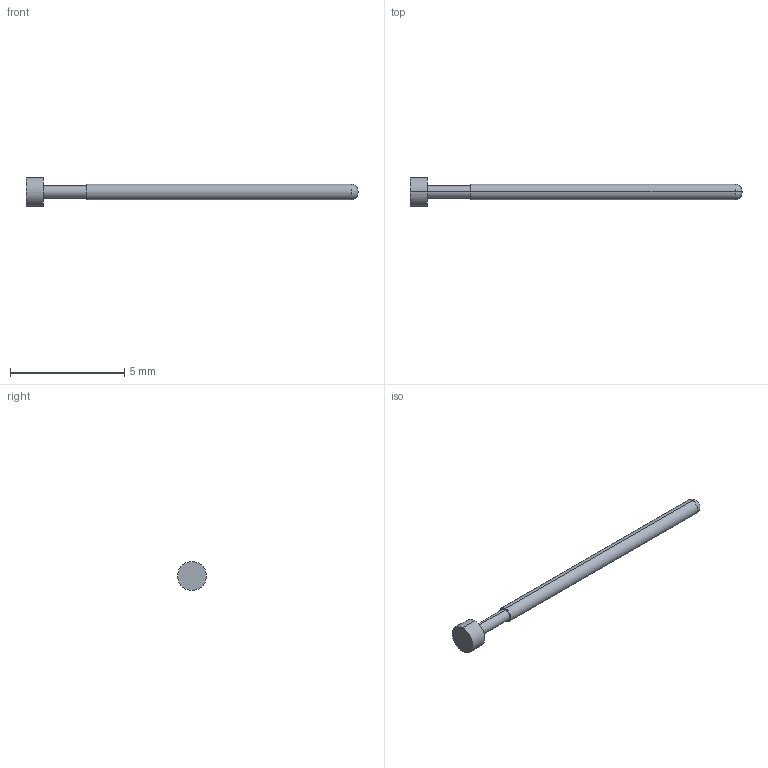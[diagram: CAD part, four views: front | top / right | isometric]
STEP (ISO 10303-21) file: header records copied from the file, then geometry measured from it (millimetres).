
FILE_DESCRIPTION (( 'STEP AP203' ), '1' );
FILE_NAME ('IP068B-2N.STEP', '2014-08-20T07:14:55', ( '' ), ( '' ), 'SwSTEP 2.0', 'SolidWorks 2011', '' );
FILE_SCHEMA (( 'CONFIG_CONTROL_DESIGN' ));
Length unit declared in the file: millimetre
Products named in the file (1): IP068B-2N
Bounding box: 14.56 x 1.27 x 1.27 mm (x, y, z)
Volume: 5.7 mm3; surface area: 34.1 mm2
Topology: 1 solids, 1 shells, 12 faces, 22 edges, 14 vertices
Faces by surface type: cylinder 6, plane 4, torus 2
Entity records: 383 total; most frequent: DIRECTION 64, CARTESIAN_POINT 49, ORIENTED_EDGE 44, AXIS2_PLACEMENT_3D 29, EDGE_CURVE 22, CIRCLE 16, VERTEX_POINT 14, EDGE_LOOP 14
